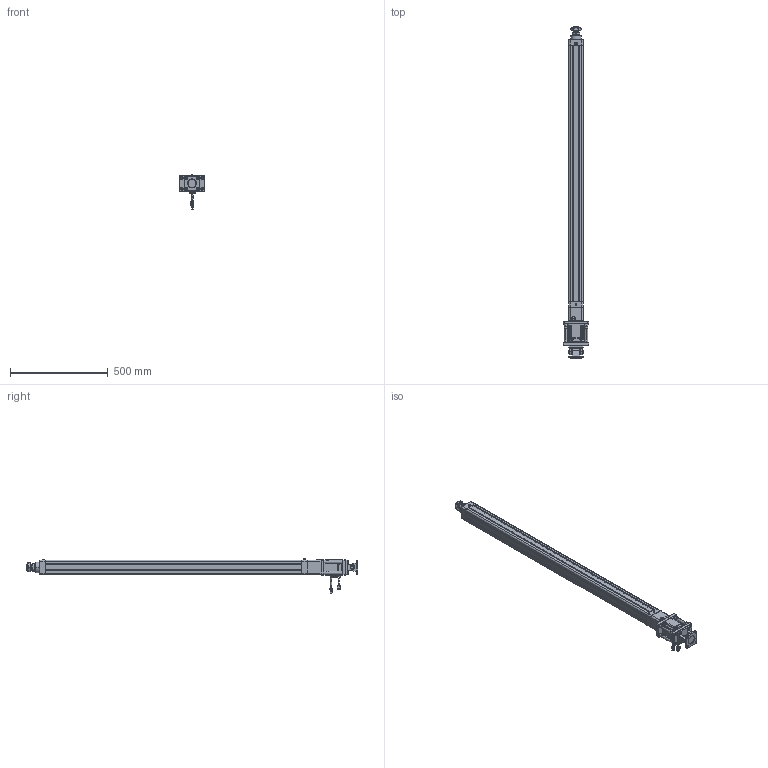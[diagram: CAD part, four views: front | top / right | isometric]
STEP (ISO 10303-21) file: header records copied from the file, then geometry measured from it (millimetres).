
FILE_DESCRIPTION((''),'2;1');
FILE_NAME('HE63-D-100-X1_ASM','2020-05-19T',('ASUS20200'),(''),'CREO PARAMETRIC BY PTC INC, 2014190','CREO PARAMETRIC BY PTC INC, 2014190','');
FILE_SCHEMA(('CONFIG_CONTROL_DESIGN'));
Products named in the file (33): HE63-D-P-001-X1; HE63-D-P-002-X1; HE63-D-P-003-X1; LGLM-M8-22; HE63-D-009-X1; HE63-D-010-X1; M6X16; _MHMF082L1A2; _CABLE_MOTOR_BOTTOM_05; _CABLE_MOTOR_TOP_05; _MOTOR_CONNECTOR_2; _CABLE_BRAKE_BOTTOM_05; _CABLE_BRAKE_TOP_05; _MHMF_CONNECTOR_9_PIN_A6; MHMF082L1A2M2_1_ASM; SLM-01; YZ-M6X1; SKT-16; TD-6; JDB405030; JX6X6X25; HE63-D-P-005-X1; HE63-D-P-004-X1; HE63-D-P-008-X1; M6X25; HE63-FB-LG; F-HE63FB; M8X20; F-SE63CB; F-SE63CB-XD; F-SE63CB_ASM; F-SE63CA; HE63-D-100-X1_ASM
Assembly tree (62 placements, depth 3):
  HE63-D-100-X1_ASM
    HE63-D-P-001-X1
    HE63-D-P-002-X1
    HE63-D-P-003-X1
    LGLM-M8-22  x8
    HE63-D-009-X1
    HE63-D-010-X1
    M6X16  x4
    MHMF082L1A2M2_1_ASM
      _MHMF082L1A2
      _CABLE_MOTOR_BOTTOM_05
      _CABLE_MOTOR_TOP_05
      _MOTOR_CONNECTOR_2
      _CABLE_BRAKE_BOTTOM_05
      _CABLE_BRAKE_TOP_05
      _MHMF_CONNECTOR_9_PIN_A6
    SLM-01
    YZ-M6X1
    SKT-16
    TD-6  x4
    JDB405030
    JX6X6X25
    HE63-D-P-005-X1
    HE63-D-P-004-X1
    HE63-D-P-008-X1
    M6X25  x4
    HE63-FB-LG  x4
    F-HE63FB
    M8X20  x12
    F-SE63CB_ASM
      F-SE63CB
      F-SE63CB-XD
    F-SE63CA
Bounding box: 130 x 1699 x 179.15 mm (x, y, z)
Volume: 4311955.2 mm3; surface area: 1321166.7 mm2
Topology: 60 solids, 100 shells, 3133 faces, 7481 edges, 4654 vertices
Faces by surface type: plane 1262, cylinder 935, cone 711, torus 178, sphere 44, bspline 3
Entity records: 72358 total; most frequent: CARTESIAN_POINT 13387, DIRECTION 13093, ORIENTED_EDGE 11446, EDGE_CURVE 5785, AXIS2_PLACEMENT_3D 4973, VERTEX_POINT 3629, VECTOR 3147, LINE 3147
